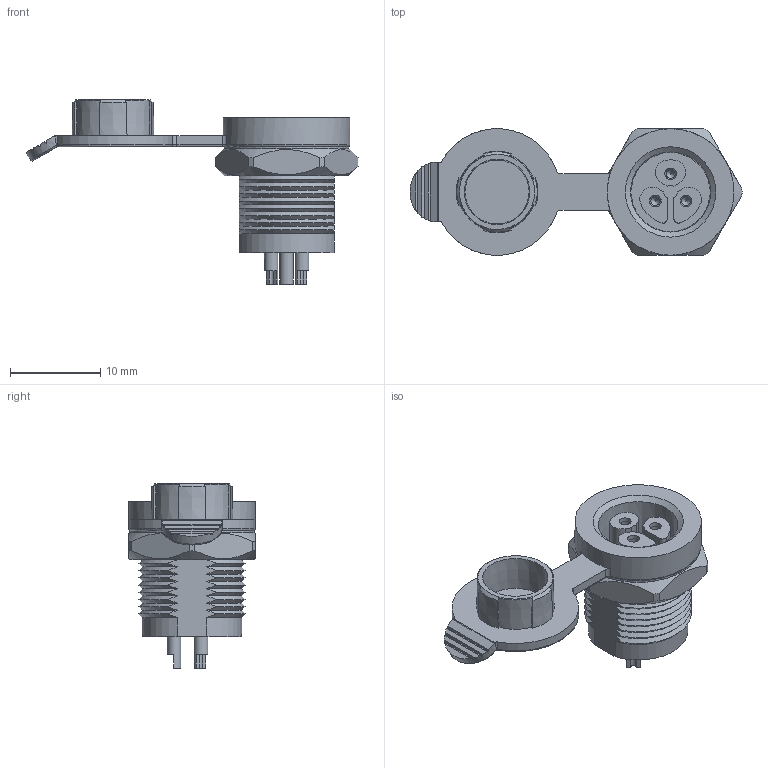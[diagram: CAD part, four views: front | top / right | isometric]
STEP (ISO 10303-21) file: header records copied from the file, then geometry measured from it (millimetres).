
FILE_DESCRIPTION(/* description */ ('STEP AP242 Edition 2','CAx-IF Rec.Pracs.---Representation and Presentation of Product Manufacturing Information (PMI)---4.0---2014-10-13','CAx-IF Rec.Pracs.---3D Tessellated Geometry---0.4---2014-09-14','2;1','CAx-IF Rec.Pracs.---User Defined Attributes---1.5---2016-08-15'),/* implementation_level */ '2;1');
FILE_NAME(/* name */ 'Assy_ForMFG - Charging_Port',/* time_stamp */ '2026-05-15T19:56:09Z',/* author */ (''),/* organization */ (''),/* preprocessor_version */ 'ST-DEVELOPER v20',/* originating_system */ 'ONSHAPE BY PTC INC, 1.215',/* authorisation */ ' ');
FILE_SCHEMA (('AP242_MANAGED_MODEL_BASED_3D_ENGINEERING_MIM_LF { 1 0 10303 442 3 1 4 }'));
Length unit declared in the file: metre
Products named in the file (1): Charging_Port
Bounding box: 36.73 x 14 x 20.4 mm (x, y, z)
Surface area: 2812.5 mm2 (no closed solid volume)
Topology: 0 solids, 1 shells, 251 faces, 672 edges, 443 vertices
Faces by surface type: plane 101, cone 68, cylinder 62, bspline 10, torus 10
Full cylindrical faces by diameter (mm): 1 x3, 1.3 x3, 1.5 x6, 10 x1, 10.5 x1, 13.8 x1, 14 x1
Entity records: 8801 total; most frequent: CARTESIAN_POINT 2857, ORIENTED_EDGE 1238, DIRECTION 1202, EDGE_CURVE 619, AXIS2_PLACEMENT_3D 488, VERTEX_POINT 422, FACE_BOUND 303, EDGE_LOOP 300
